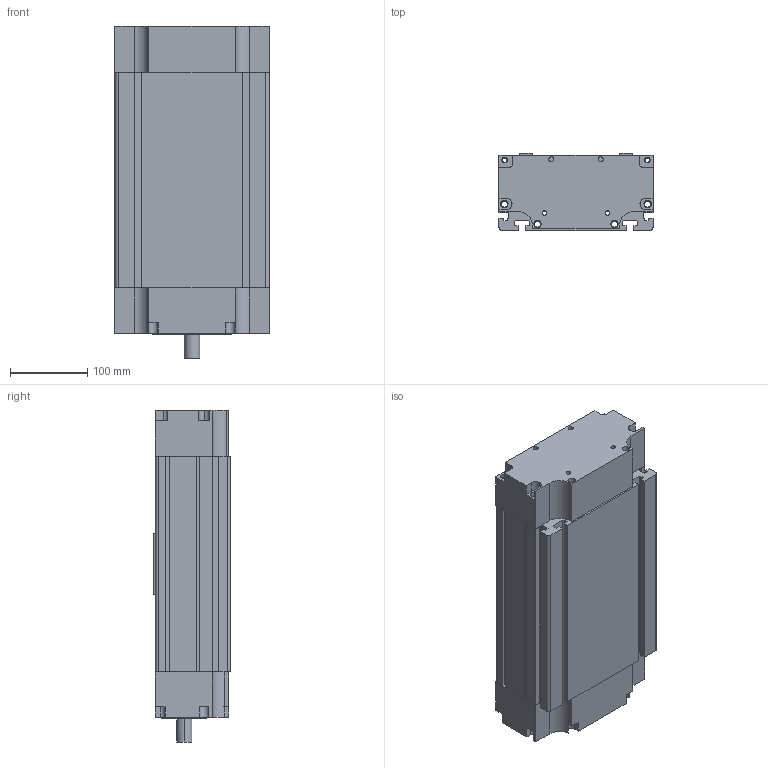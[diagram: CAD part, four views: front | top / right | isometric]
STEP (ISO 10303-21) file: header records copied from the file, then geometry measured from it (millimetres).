
FILE_DESCRIPTION (( 'STEP AP203' ), '1' );
FILE_NAME ('MSY200B-100-LL3210-P7.STEP', '2013-11-02T05:16:01', ( '微软用户' ), ( '微软中国' ), 'SwSTEP 2.0', 'SolidWorks 2010', '' );
FILE_SCHEMA (( 'CONFIG_CONTROL_DESIGN' ));
Length unit declared in the file: millimetre
Products named in the file (1): MSY200B-100-LL3210-P7
Bounding box: 200.2 x 99.96 x 431 mm (x, y, z)
Volume: 7084397.7 mm3; surface area: 422404.4 mm2
Topology: 1 solids, 1 shells, 326 faces, 855 edges, 552 vertices
Faces by surface type: plane 220, cylinder 98, cone 8
Entity records: 10045 total; most frequent: CARTESIAN_POINT 1756, DIRECTION 1702, ORIENTED_EDGE 1694, EDGE_CURVE 847, VECTOR 642, LINE 642, VERTEX_POINT 552, AXIS2_PLACEMENT_3D 530
